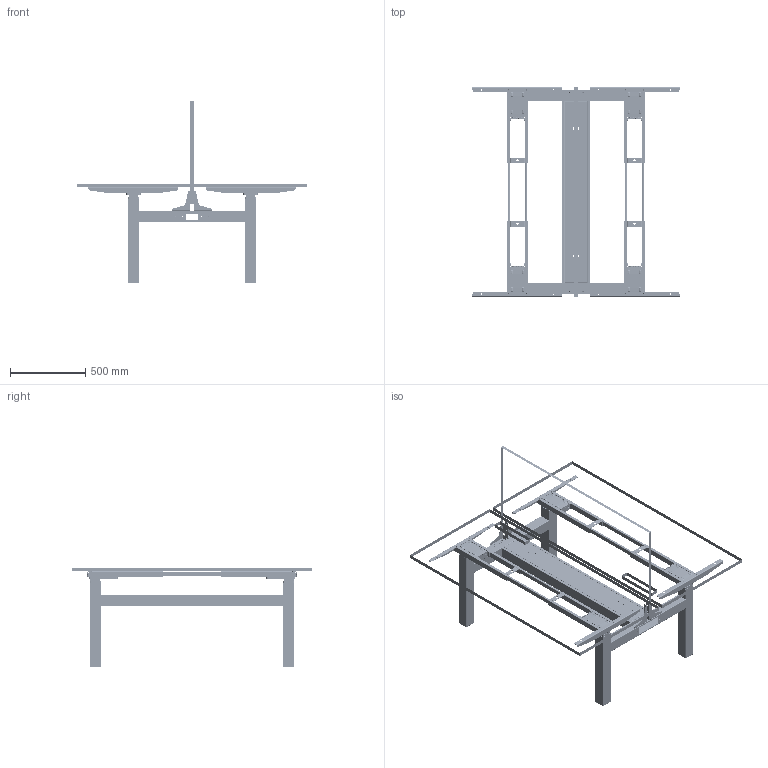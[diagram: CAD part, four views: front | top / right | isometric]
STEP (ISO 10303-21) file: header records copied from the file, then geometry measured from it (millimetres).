
FILE_DESCRIPTION(('CATIA V5 STEP Exchange'),'2;1');
FILE_NAME('F:\胡亚菊\工作\2022年设计申请单\张丽\T139(任务单号0804#)\工程图\序号2任务单号0804# 生产图及BOM清单\(AK2YJYT-TYZF3)X2-T139.stp','2022-04-02T01:45:42+00:00',('none'),('none'),'CATIA Version 5 Release 21 GA (IN-10)','CATIA V5 STEP AP203','none');
FILE_SCHEMA(('CONFIG_CONTROL_DESIGN'));
Products named in the file (14): (AK2YJYT-TYZF3)X2-T139; AK2YJYT-TYZF3; Product1; TYZF3DKZ-0016.1; AK-ZF3-SG01-558_65LS; 1.15.083.X AK-TYZF3-XG01-526_75组合式_下管(组合式薄管隐藏式正装方管三节); 1.01.520.X AK-ZHHL02YJ-TM500A; AK-ZHHL02YJ-TM500A-V4; Product2; TYZF3DKY-0016; AK-ZHHL02J-990B(ZHJ); Product1-LJL-137; 【临时】1.96.008.4811X AK-ZHLJJ02-705_75三角垫块_组合式连接梁; AK-GXC01S-1213-ASM
Assembly tree (54 placements, depth 6):
  (AK2YJYT-TYZF3)X2-T139
    AK2YJYT-TYZF3  x2
      Product1
        TYZF3DKZ-0016.1
          AK-ZF3-SG01-558_65LS
            #90
            #2987
            #11740
          #14617
          1.15.083.X AK-TYZF3-XG01-526_75组合式_下管(组合式薄管隐藏式正装方管三节)
            #18564
            #19951
            #21024
          #22874
          #68175
          #75969
        1.01.520.X AK-ZHHL02YJ-TM500A
          AK-ZHHL02YJ-TM500A-V4
            #83792  x2
            #84780
            #85637
            #86794
          #88388  x2
        #90900
        #92287
      Product2
        TYZF3DKY-0016
          AK-ZF3-SG01-558_65LS
            #90
            #2987
            #11740
          #14617
          1.15.083.X AK-TYZF3-XG01-526_75组合式_下管(组合式薄管隐藏式正装方管三节)
            #18564
            #19951
            #21024
          #22874
          #68175
          #75969
        1.01.520.X AK-ZHHL02YJ-TM500A
          AK-ZHHL02YJ-TM500A-V4
            #83792  x2
            #84780
            #85637
            #86794
          #88388  x2
        #90900
        #92287
      AK-ZHHL02J-990B(ZHJ)
        #97434  x2
      #98383
    Product1-LJL-137  x2
      【临时】1.96.008.4811X AK-ZHLJJ02-705_75三角垫块_组合式连接梁
        #98704  x2
        #99697
      #102784
      #104913
    #107070
    AK-GXC01S-1213-ASM
      #107265
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Bounding box: 1530 x 1600 x 1218.5 mm (x, y, z)
Volume: 7119592 mm3; surface area: 9036963.1 mm2
Topology: 92 solids, 97 shells, 12252 faces, 33912 edges, 21885 vertices
Faces by surface type: plane 5528, cylinder 4408, cone 1032, bspline 716, torus 456, sphere 112
Entity records: 117669 total; most frequent: CARTESIAN_POINT 39239, ORIENTED_EDGE 18232, DIRECTION 12278, EDGE_CURVE 9128, VERTEX_POINT 5888, VECTOR 5003, LINE 5003, AXIS2_PLACEMENT_3D 4710
